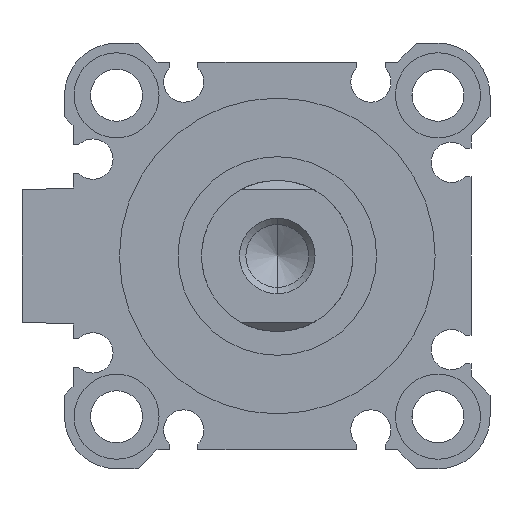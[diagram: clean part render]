
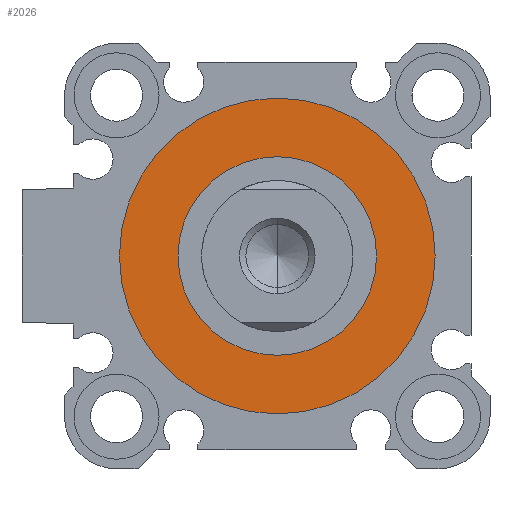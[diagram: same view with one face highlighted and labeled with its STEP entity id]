
A CAD part, left-side view. The second image highlights one B-rep face of the part: STEP entity #2026.
In plain terms, the highlighted planar face has unit normal (-1, 0, 0).
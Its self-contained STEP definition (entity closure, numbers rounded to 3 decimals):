
#6 = DIRECTION ( 'NONE',  ( 0., 1., 0. ) ) ;
#20 = ORIENTED_EDGE ( 'NONE', *, *, #3359, .F. ) ;
#220 = CIRCLE ( 'NONE', #771, 16.7 ) ;
#309 = DIRECTION ( 'NONE',  ( 0., 0., -1. ) ) ;
#393 = DIRECTION ( 'NONE',  ( 1., 0., 0. ) ) ;
#494 = CARTESIAN_POINT ( 'NONE',  ( 2.1, 0., -10.5 ) ) ;
#771 = AXIS2_PLACEMENT_3D ( 'NONE', #1386, #1031, #2577 ) ;
#1017 = DIRECTION ( 'NONE',  ( 1., 0., 0. ) ) ;
#1031 = DIRECTION ( 'NONE',  ( 1., 0., 0. ) ) ;
#1135 = FACE_OUTER_BOUND ( 'NONE', #1165, .T. ) ;
#1165 = EDGE_LOOP ( 'NONE', ( #3599, #20 ) ) ;
#1250 = AXIS2_PLACEMENT_3D ( 'NONE', #1494, #1017, #3355 ) ;
#1372 = CARTESIAN_POINT ( 'NONE',  ( 2.1, 0., -16.7 ) ) ;
#1386 = CARTESIAN_POINT ( 'NONE',  ( 2.1, 0., 0. ) ) ;
#1494 = CARTESIAN_POINT ( 'NONE',  ( 2.1, 0., 0. ) ) ;
#1504 = EDGE_LOOP ( 'NONE', ( #2032, #3976 ) ) ;
#1597 = AXIS2_PLACEMENT_3D ( 'NONE', #4418, #2130, #4043 ) ;
#1599 = VERTEX_POINT ( 'NONE', #494 ) ;
#1676 = VERTEX_POINT ( 'NONE', #3247 ) ;
#1681 = VERTEX_POINT ( 'NONE', #1372 ) ;
#1742 = AXIS2_PLACEMENT_3D ( 'NONE', #4244, #393, #6 ) ;
#1786 = EDGE_CURVE ( 'NONE', #1676, #1599, #2789, .T. ) ;
#2026 = ADVANCED_FACE ( 'NONE', ( #1135, #2689 ), #3479, .F. ) ;
#2032 = ORIENTED_EDGE ( 'NONE', *, *, #1786, .T. ) ;
#2066 = CIRCLE ( 'NONE', #2963, 10.5 ) ;
#2092 = EDGE_CURVE ( 'NONE', #1599, #1676, #2066, .T. ) ;
#2096 = EDGE_CURVE ( 'NONE', #2097, #1681, #220, .T. ) ;
#2097 = VERTEX_POINT ( 'NONE', #4464 ) ;
#2130 = DIRECTION ( 'NONE',  ( 1., 0., 0. ) ) ;
#2577 = DIRECTION ( 'NONE',  ( 0., 0., -1. ) ) ;
#2689 = FACE_BOUND ( 'NONE', #1504, .T. ) ;
#2789 = CIRCLE ( 'NONE', #1250, 10.5 ) ;
#2963 = AXIS2_PLACEMENT_3D ( 'NONE', #4058, #3677, #309 ) ;
#3247 = CARTESIAN_POINT ( 'NONE',  ( 2.1, 0., 10.5 ) ) ;
#3355 = DIRECTION ( 'NONE',  ( 0., 0., -1. ) ) ;
#3359 = EDGE_CURVE ( 'NONE', #1681, #2097, #3631, .T. ) ;
#3479 = PLANE ( 'NONE',  #1742 ) ;
#3599 = ORIENTED_EDGE ( 'NONE', *, *, #2096, .F. ) ;
#3631 = CIRCLE ( 'NONE', #1597, 16.7 ) ;
#3677 = DIRECTION ( 'NONE',  ( 1., 0., 0. ) ) ;
#3976 = ORIENTED_EDGE ( 'NONE', *, *, #2092, .T. ) ;
#4043 = DIRECTION ( 'NONE',  ( 0., 0., -1. ) ) ;
#4058 = CARTESIAN_POINT ( 'NONE',  ( 2.1, 0., 0. ) ) ;
#4244 = CARTESIAN_POINT ( 'NONE',  ( 2.1, 0., 0. ) ) ;
#4418 = CARTESIAN_POINT ( 'NONE',  ( 2.1, 0., 0. ) ) ;
#4464 = CARTESIAN_POINT ( 'NONE',  ( 2.1, 0., 16.7 ) ) ;
